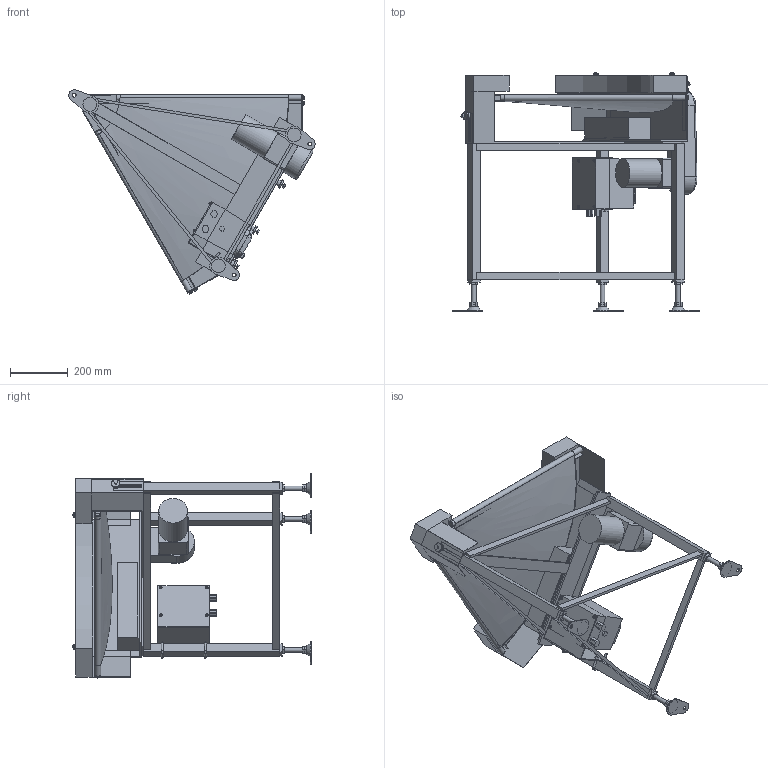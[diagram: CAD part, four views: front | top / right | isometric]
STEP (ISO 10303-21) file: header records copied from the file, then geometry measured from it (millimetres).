
FILE_DESCRIPTION (( 'STEP AP214' ), '1' );
FILE_NAME ('GFBC60-UD500-R.STEP', '2022-09-08T08:08:54', ( '' ), ( '' ), 'SwSTEP 2.0', 'SolidWorks 2017', '' );
FILE_SCHEMA (( 'AUTOMOTIVE_DESIGN' ));
Length unit declared in the file: millimetre
Products named in the file (1): GFBC60-UD500-R
Bounding box: 856.01 x 827.92 x 709.58 mm (x, y, z)
Volume: 20825315.9 mm3; surface area: 3833022.1 mm2
Topology: 54 solids, 55 shells, 965 faces, 2186 edges, 1410 vertices
Faces by surface type: plane 692, cylinder 187, bspline 44, cone 34, torus 6, sphere 2
Full cylindrical faces by diameter (mm): 4 x4, 4.2 x2, 4.5 x1, 5 x4, 5.9 x4, 6 x9, 7 x1, 7.6 x4, 8 x15, 9 x6, 10 x2, 12 x1, 12.2 x2, 12.5 x7, 13 x7, 15 x4, 16 x9, 18 x2, 18.4 x1, 20 x7, 21 x1, 25 x1, 30 x6, 99 x1
Entity records: 45186 total; most frequent: CARTESIAN_POINT 13093, DIRECTION 4131, ORIENTED_EDGE 4078, EDGE_CURVE 2039, VECTOR 1409, LINE 1409, VERTEX_POINT 1383, AXIS2_PLACEMENT_3D 1361
